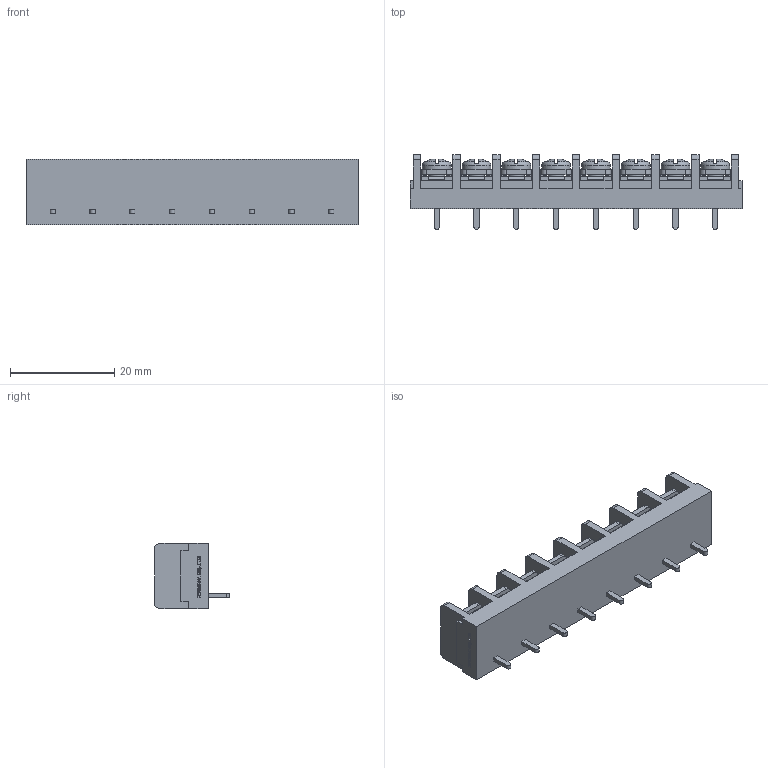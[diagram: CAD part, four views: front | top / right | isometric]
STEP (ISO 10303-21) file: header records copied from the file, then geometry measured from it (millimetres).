
FILE_DESCRIPTION(/* description */ ('Alibre Inc.'),/* implementation_level */ '2;1');
FILE_NAME(/* name */ 'export0',/* time_stamp */ '2015-10-26T17:25:50+09:00',/* author */ (''),/* organization */ (''),/* preprocessor_version */ 'ST-DEVELOPER v14',/* originating_system */ 'Alibre',/* authorisation */ '');
FILE_SCHEMA (('CONFIG_CONTROL_DESIGN'));
Length unit declared in the file: centimetre
Products named in the file (1): ID_1
Bounding box: 63.58 x 14.3 x 12.5 mm (x, y, z)
Volume: 5745.3 mm3; surface area: 5216.7 mm2
Topology: 1 solids, 1 shells, 1170 faces, 3216 edges, 2120 vertices
Faces by surface type: plane 904, bspline 104, cylinder 98, cone 32, torus 16, sphere 16
Full cylindrical faces by diameter (mm): 3 x8, 5.5 x8
Entity records: 35325 total; most frequent: CARTESIAN_POINT 7907, ORIENTED_EDGE 6304, DIRECTION 4298, EDGE_CURVE 3152, VECTOR 2260, LINE 2260, VERTEX_POINT 2088, AXIS2_PLACEMENT_3D 1431
